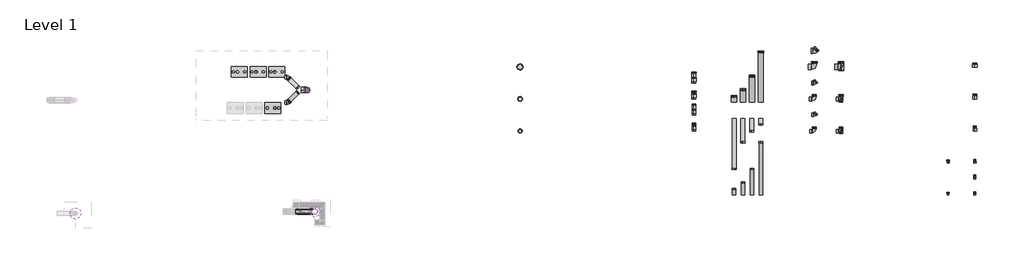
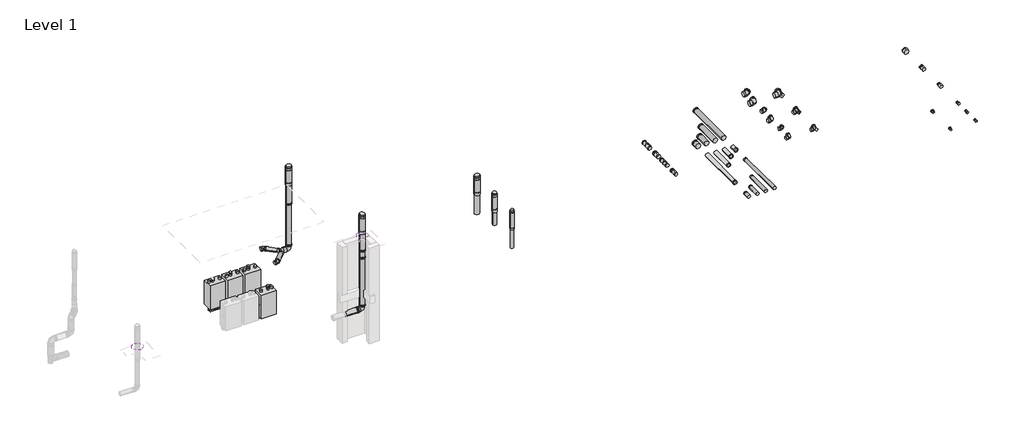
# One storey, part 2 of 2: 43 duct fittings, 5 air terminals, 4 unitary equipment elements, 3 duct segments, 2 coverings.
"""IFC4 building model written with IfcOpenShell, lengths in millimetres."""

from ifc_helpers import new_model, si_unit, frame, origin, place, context, project, spatial, circle_curve, ellipse_curve, transform, mapped, element, save
from ifc_brep_helpers import plane_surface, cylinder_surface, advanced_brep
from components import air_terminal_c4a1c7fc, air_terminal_16127070, air_terminal_aa595a08, air_terminal_d551fddf, covering_b4739faa, covering_65d68dae, duct_fitting_533d9af2, duct_fitting_b8df35ce, duct_fitting_8dfe7da2, duct_fitting_345853f5, duct_fitting_ab07d6e0, duct_fitting_0e4c7d32, duct_fitting_3590a55b, duct_fitting_fbf5378a, duct_fitting_61e90ce6, duct_fitting_113a3a52, duct_fitting_7c9a1def, duct_fitting_1957377e, duct_fitting_2b33db09, duct_fitting_de41c6b8, duct_fitting_32ee2810, duct_fitting_5c795bad, duct_fitting_2964ce86, duct_fitting_6345bc61, duct_fitting_84fb14a7, duct_fitting_6d300570, duct_fitting_58c5740b, duct_fitting_590bbebe, duct_fitting_acd04bb9, duct_fitting_d5854984, duct_fitting_9444e74b, duct_fitting_ad141df4, duct_fitting_7f7e895c, duct_fitting_6e9e7a38, duct_fitting_632ce2a9, duct_fitting_e9746d7f, duct_fitting_a8be000e, duct_fitting_9e2eeb5f, duct_fitting_29f06fc0, duct_fitting_274715c7, duct_fitting_88745d1b, duct_fitting_c2fbb5bf, duct_fitting_874dda1b, duct_fitting_8a0d83d2, type_1_50a8d933

model = new_model("IFC4")

# Units and contexts
model_context = context("Model", 3, world=origin())
ifc_project = project(units=[si_unit("LENGTHUNIT", "METRE", prefix="MILLI")], contexts=[model_context])

# Site, building, storey
site = spatial("IfcSite", under=ifc_project)
building = spatial("IfcBuilding", under=site)
storey = spatial("IfcBuildingStorey", under=building, Name="Level 1", Elevation=0.0)

# Air terminals
placement = place(None, origin())
air_terminal_shape = air_terminal_c4a1c7fc(model_context)
element("IfcAirTerminal", 1, ObjectType="RSFen_AIR_WPB_flue gas rooftop terminal_M&G : PP Black, ø130", at=placement, inside=storey, context=model_context, shape_type="MappedRepresentation", body=[
    mapped(air_terminal_shape, transform((16514.2193339, 5618.3323371, 0.0), x_axis=(1.0, 0.0, 0.0), y_axis=(0.0, 1.0, 0.0), z_axis=(0.0, 0.0, 1.0))),
])
air_terminal_2_shape = air_terminal_16127070(model_context)
element("IfcAirTerminal", 2, ObjectType="RSFen_AIR_WPB_flue gas rooftop terminal_M&G : PP Black, ø150", at=placement, inside=storey, context=model_context, shape_type="MappedRepresentation", body=[
    mapped(air_terminal_2_shape, transform((16514.2193339, 6818.3323371, 0.0), x_axis=(1.0, 0.0, 0.0), y_axis=(0.0, 1.0, 0.0), z_axis=(0.0, 0.0, 1.0))),
])
air_terminal_3_shape = air_terminal_aa595a08(model_context)
element("IfcAirTerminal", 3, ObjectType="RSFen_AIR_WPB_flue gas rooftop terminal_M&G : PP Black, ø200", at=placement, inside=storey, context=model_context, shape_type="MappedRepresentation", body=[
    mapped(air_terminal_3_shape, transform((16514.2193339, 8018.3323371, 0.0), x_axis=(1.0, 0.0, 0.0), y_axis=(0.0, 1.0, 0.0), z_axis=(0.0, 0.0, 1.0))),
])
air_terminal_4_shape = air_terminal_d551fddf(model_context)
element("IfcAirTerminal", 4, ObjectType="RSFen_AIR_WPB_flue gas rooftop terminal_M&G : PP Black, ø200", at=placement, inside=storey, context=model_context, shape_type="MappedRepresentation", body=[
    mapped(air_terminal_4_shape, transform((8838.4992982, 2600.0743938, 4345.0), x_axis=(1.0, 0.0, 0.0), y_axis=(0.0, 1.0, 0.0), z_axis=(0.0, 0.0, 1.0))),
])
element("IfcAirTerminal", 5, ObjectType="RSFen_AIR_WPB_flue gas rooftop terminal_M&G : PP Black, ø200", at=placement, inside=storey, context=model_context, shape_type="MappedRepresentation", body=[
    mapped(air_terminal_3_shape, transform((8558.8674434, 7156.464626, 3705.2550343), x_axis=(1.0, 0.0, 0.0), y_axis=(0.0, 1.0, 0.0), z_axis=(0.0, 0.0, 1.0))),
])

# Coverings
covering_shape = covering_b4739faa(model_context)
element("IfcCovering", 6, ObjectType="RSFen_GM_WPB_weather slate flat roof_M&G : ø160", at=placement, inside=storey, context=model_context, shape_type="MappedRepresentation", body=[
    mapped(covering_shape, transform((-100.8341645, 2531.0161204, 2750.0), x_axis=(1.0, 0.0, 0.0), y_axis=(0.0, 1.0, 0.0), z_axis=(0.0, 0.0, 1.0))),
])
covering_2_shape = covering_65d68dae(model_context)
element("IfcCovering", 7, ObjectType="RSFen_GM_WPB_weather slate flat roof_M&G : ø204", at=placement, inside=storey, context=model_context, shape_type="MappedRepresentation", body=[
    mapped(covering_2_shape, transform((8838.4992982, 2600.0743938, 4250.0), x_axis=(1.0, 0.0, 0.0), y_axis=(0.0, 1.0, 0.0), z_axis=(0.0, 0.0, 1.0))),
])

# Duct fittings
duct_fitting_shape = duct_fitting_533d9af2(model_context)
element("IfcDuctFitting", 8, ObjectType="RSFen_DUF_UN_Twinline Expander_M&G : ø60-80-100-130-150-200", at=placement, inside=storey, context=model_context, shape_type="MappedRepresentation", body=[
    mapped(duct_fitting_shape, transform((32514.2193339, 4418.3323371, 0.0), x_axis=(0.0, 1.0, 0.0), y_axis=(-1.0, 0.0, 0.0), z_axis=(0.0, 0.0, 1.0))),
])
duct_fitting_2_shape = duct_fitting_b8df35ce(model_context)
element("IfcDuctFitting", 9, ObjectType="RSFen_DUF_UN_Twinline Reducer_M&G : ø080-100-150-200", at=placement, inside=storey, context=model_context, shape_type="MappedRepresentation", body=[
    mapped(duct_fitting_2_shape, transform((33514.2193339, 5618.3323371, 0.0), x_axis=(0.0, 1.0, 0.0), y_axis=(-1.0, 0.0, 0.0), z_axis=(0.0, 0.0, 1.0))),
])
duct_fitting_3_shape = duct_fitting_8dfe7da2(model_context)
element("IfcDuctFitting", 10, ObjectType="RSFen_DUF_UN_Twinline Extension_M&G : ø130-150-200", at=placement, inside=storey, context=model_context, shape_type="MappedRepresentation", body=[
    mapped(duct_fitting_3_shape, transform((24847.5526673, 6703.3323371, 0.0), x_axis=(0.0, 1.0, 0.0), y_axis=(-1.0, 0.0, 0.0), z_axis=(0.0, 0.0, 1.0))),
])
duct_fitting_4_shape = duct_fitting_345853f5(model_context)
element("IfcDuctFitting", 11, ObjectType="RSFen_DUF_UN_Twinline Bend_M&G : ø130 - 150 - 200", at=placement, inside=storey, context=model_context, shape_type="MappedRepresentation", body=[
    mapped(duct_fitting_4_shape, transform((8838.4992982, 2600.0743938, 1178.3755805), x_axis=(1.0, 0.0, 0.0), y_axis=(0.0, 0.0, 1.0), z_axis=(0.0, -1.0, 0.0))),
])
element("IfcDuctFitting", 12, ObjectType="RSFen_DUF_UN_Twinline Bend_M&G : ø130 - 150 - 200", at=placement, inside=storey, context=model_context, shape_type="MappedRepresentation", body=[
    mapped(duct_fitting_4_shape, transform((27514.2193339, 8018.3323371, 0.0), x_axis=(1.0, 0.0, 0.0), y_axis=(0.0, 1.0, 0.0), z_axis=(0.0, 0.0, 1.0))),
])
duct_fitting_5_shape = duct_fitting_ab07d6e0(model_context)
element("IfcDuctFitting", 13, ObjectType="RSFen_DUF_UN_Twinline Bend_M&G : ø130 - 150 - 200", at=placement, inside=storey, context=model_context, shape_type="MappedRepresentation", body=[
    mapped(duct_fitting_5_shape, transform((27514.2193339, 8618.3323371, 0.0), x_axis=(1.0, 0.0, 0.0), y_axis=(0.0, 1.0, 0.0), z_axis=(0.0, 0.0, 1.0))),
])
duct_fitting_6_shape = duct_fitting_0e4c7d32(model_context)
element("IfcDuctFitting", 14, ObjectType="RSFen_DUF_UN_Twinline Bend_M&G : ø130 - 150 - 200", at=placement, inside=storey, context=model_context, shape_type="MappedRepresentation", body=[
    mapped(duct_fitting_6_shape, transform((27514.2193339, 6818.3323371, 0.0), x_axis=(1.0, 0.0, 0.0), y_axis=(0.0, 1.0, 0.0), z_axis=(0.0, 0.0, 1.0))),
])
duct_fitting_7_shape = duct_fitting_3590a55b(model_context)
element("IfcDuctFitting", 15, ObjectType="RSFen_DUF_UN_Twinline Extension_M&G : ø130-150-200", at=placement, inside=storey, context=model_context, shape_type="MappedRepresentation", body=[
    mapped(duct_fitting_7_shape, transform((8106.4992982, 2600.0743938, 1178.3755805), x_axis=(1.0, 0.0, 0.0), y_axis=(0.0, 1.0, 0.0), z_axis=(0.0, 0.0, 1.0))),
])
duct_fitting_8_shape = duct_fitting_fbf5378a(model_context)
element("IfcDuctFitting", 16, ObjectType="RSFen_DUF_UN_Twinline Extension_M&G : ø130-150-200", at=placement, inside=storey, context=model_context, shape_type="MappedRepresentation", body=[
    mapped(duct_fitting_8_shape, transform((8838.4992982, 2600.0743938, 1313.3755805), x_axis=(0.0, 0.0, 1.0), y_axis=(-1.0, 0.0, 0.0), z_axis=(0.0, -1.0, 0.0))),
])
duct_fitting_9_shape = duct_fitting_61e90ce6(model_context)
element("IfcDuctFitting", 17, ObjectType="RSFen_DUF_UN_Twinline Extension_M&G : ø130-150-200", at=placement, inside=storey, context=model_context, shape_type="MappedRepresentation", body=[
    mapped(duct_fitting_9_shape, transform((8838.4992982, 2600.0743938, 3313.3755805), x_axis=(0.0, 0.0, 1.0), y_axis=(-1.0, 0.0, 0.0), z_axis=(0.0, -1.0, 0.0))),
])
duct_fitting_10_shape = duct_fitting_113a3a52(model_context)
element("IfcDuctFitting", 18, ObjectType="RSFen_DUF_UN_Twinline Bend_M&G : ø130 - 150 - 200", at=placement, inside=storey, context=model_context, shape_type="MappedRepresentation", body=[
    mapped(duct_fitting_10_shape, transform((7826.7451939, 7629.2362199, 996.9267508), x_axis=(0.9997985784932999, 0.0, 0.020069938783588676), y_axis=(0.0, -1.0000000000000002, 0.0), z_axis=(0.020069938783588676, 0.0, -0.9997985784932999))),
])
element("IfcDuctFitting", 19, ObjectType="RSFen_DUF_UN_Twinline Bend_M&G : ø130 - 150 - 200", at=placement, inside=storey, context=model_context, shape_type="MappedRepresentation", body=[
    mapped(duct_fitting_10_shape, transform((27514.2193339, 7418.3323371, 0.0), x_axis=(1.0, 0.0, 0.0), y_axis=(0.0, 1.0, 0.0), z_axis=(0.0, 0.0, 1.0))),
])
element("IfcDuctFitting", 20, ObjectType="RSFen_DUF_UN_Twinline Bend_M&G : ø130 - 150 - 200", at=placement, inside=storey, context=model_context, shape_type="MappedRepresentation", body=[
    mapped(duct_fitting_10_shape, transform((7826.7451939, 6683.6930321, 996.9267508), x_axis=(0.9997985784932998, 0.0, 0.020069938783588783), y_axis=(0.0, 1.0, 0.0), z_axis=(-0.020069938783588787, 0.0, 0.9997985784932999))),
])
duct_fitting_11_shape = duct_fitting_7c9a1def(model_context)
element("IfcDuctFitting", 21, ObjectType="RSFen_DUF_UN_Twinline Extension_M&G : ø130-150-200", at=placement, inside=storey, context=model_context, shape_type="MappedRepresentation", body=[
    mapped(duct_fitting_11_shape, transform((7871.2839482, 6728.2407593, 997.8208209), x_axis=(0.7069643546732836, 0.707106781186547, 0.014191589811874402), y_axis=(-0.7069643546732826, 0.7071067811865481, -0.01419158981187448), z_axis=(-0.020069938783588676, 0.0, 0.9997985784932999))),
])
element("IfcDuctFitting", 22, ObjectType="RSFen_DUF_UN_Twinline Extension_M&G : ø130-150-200", at=placement, inside=storey, context=model_context, shape_type="MappedRepresentation", body=[
    mapped(duct_fitting_11_shape, transform((25180.8860006, 6088.3323251, 0.0), x_axis=(0.0, -1.0, 0.0), y_axis=(1.0, 0.0, 0.0), z_axis=(0.0, 0.0, 1.0))),
])
element("IfcDuctFitting", 23, ObjectType="RSFen_DUF_UN_Twinline Extension_M&G : ø130-150-200", at=placement, inside=storey, context=model_context, shape_type="MappedRepresentation", body=[
    mapped(duct_fitting_11_shape, transform((7871.2839482, 7584.6884926, 997.8208209), x_axis=(0.7069643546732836, -0.707106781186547, 0.014191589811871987), y_axis=(-0.7069643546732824, -0.7071067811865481, -0.014191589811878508), z_axis=(0.020069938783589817, 0.0, -0.9997985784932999))),
])
duct_fitting_12_shape = duct_fitting_1957377e(model_context)
element("IfcDuctFitting", 24, ObjectType="RSFen_DUF_UN_Twinline Extension_M&G : ø130-150-200", at=placement, inside=storey, context=model_context, shape_type="MappedRepresentation", body=[
    mapped(duct_fitting_12_shape, transform((8558.8674434, 7156.464626, 1171.6283963), x_axis=(0.0, 0.0, 1.0), y_axis=(-1.0, 0.0, 0.0), z_axis=(0.0, -1.0, 0.0))),
])
duct_fitting_13_shape = duct_fitting_2b33db09(model_context)
element("IfcDuctFitting", 25, ObjectType="RSFen_DUF_UN_Twinline Bend_M&G : ø130 - 150 - 200", at=placement, inside=storey, context=model_context, shape_type="MappedRepresentation", body=[
    mapped(duct_fitting_13_shape, transform((8558.8674434, 7156.464626, 1036.6283963), x_axis=(0.9997985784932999, 0.0, 0.020069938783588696), y_axis=(-0.020069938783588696, 0.0, 0.9997985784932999), z_axis=(0.0, -1.0, 0.0))),
])
duct_fitting_14_shape = duct_fitting_de41c6b8(model_context)
element("IfcDuctFitting", 26, ObjectType="RSFen_DUF_UN_Twinline Adjuster_M&G : ø130-150", at=placement, inside=storey, context=model_context, shape_type="MappedRepresentation", body=[
    mapped(duct_fitting_14_shape, transform((23014.2193339, 5618.3323371, 0.0), x_axis=(0.0, 1.0, 0.0), y_axis=(-1.0, 0.0, 0.0), z_axis=(0.0, 0.0, 1.0))),
])
duct_fitting_15_shape = duct_fitting_32ee2810(model_context)
element("IfcDuctFitting", 27, ObjectType="RSFen_DUF_UN_Twinline Expander_M&G : ø60-80-100-130-150-200", at=placement, inside=storey, context=model_context, shape_type="MappedRepresentation", body=[
    mapped(duct_fitting_15_shape, transform((32514.2193339, 3218.3323371, 0.0), x_axis=(0.0, 1.0, 0.0), y_axis=(-1.0, 0.0, 0.0), z_axis=(0.0, 0.0, 1.0))),
])
duct_fitting_16_shape = duct_fitting_5c795bad(model_context)
element("IfcDuctFitting", 28, ObjectType="RSFen_DUF_UN_Twinline Reducer_M&G : ø080-100-150-200", at=placement, inside=storey, context=model_context, shape_type="MappedRepresentation", body=[
    mapped(duct_fitting_16_shape, transform((33514.2193339, 3218.3323371, 0.0), x_axis=(0.0, 1.0, 0.0), y_axis=(-1.0, 0.0, 0.0), z_axis=(0.0, 0.0, 1.0))),
])
duct_fitting_17_shape = duct_fitting_2964ce86(model_context)
element("IfcDuctFitting", 29, ObjectType="RSFen_DUF_UN_Twinline Reducer_M&G : ø080-100-150-200", at=placement, inside=storey, context=model_context, shape_type="MappedRepresentation", body=[
    mapped(duct_fitting_17_shape, transform((33514.2193339, 4418.3323371, 0.0), x_axis=(0.0, 1.0, 0.0), y_axis=(-1.0, 0.0, 0.0), z_axis=(0.0, 0.0, 1.0))),
])
duct_fitting_18_shape = duct_fitting_6345bc61(model_context)
element("IfcDuctFitting", 30, ObjectType="RSFen_DUF_UN_Twinline Reducer_M&G : ø080-100-150-200", at=placement, inside=storey, context=model_context, shape_type="MappedRepresentation", body=[
    mapped(duct_fitting_18_shape, transform((33514.2193339, 6818.3323371, 0.0), x_axis=(0.0, 1.0, 0.0), y_axis=(-1.0, 0.0, 0.0), z_axis=(0.0, 0.0, 1.0))),
])
duct_fitting_19_shape = duct_fitting_84fb14a7(model_context)
element("IfcDuctFitting", 31, ObjectType="RSFen_DUF_UN_Twinline Reducer_M&G : ø080-100-150-200", at=placement, inside=storey, context=model_context, shape_type="MappedRepresentation", body=[
    mapped(duct_fitting_19_shape, transform((33514.2193339, 8018.3323371, 0.0), x_axis=(0.0, 1.0, 0.0), y_axis=(-1.0, 0.0, 0.0), z_axis=(0.0, 0.0, 1.0))),
])
duct_fitting_20_shape = duct_fitting_6d300570(model_context)
element("IfcDuctFitting", 32, ObjectType="RSFen_DUF_UN_Twinline Reducer_M&G : ø080-100-150-200", at=placement, inside=storey, context=model_context, shape_type="MappedRepresentation", body=[
    mapped(duct_fitting_20_shape, transform((33514.2193339, 3818.3323371, 0.0), x_axis=(0.0, 1.0, 0.0), y_axis=(-1.0, 0.0, 0.0), z_axis=(0.0, 0.0, 1.0))),
])
duct_fitting_21_shape = duct_fitting_58c5740b(model_context)
element("IfcDuctFitting", 33, ObjectType="RSFen_DUF_UN_Twinline Extension_M&G : ø130-150-200", at=placement, inside=storey, context=model_context, shape_type="MappedRepresentation", body=[
    mapped(duct_fitting_21_shape, transform((24847.5526673, 3218.3323371, 0.0), x_axis=(0.0, 1.0, 0.0), y_axis=(-1.0, 0.0, 0.0), z_axis=(0.0, 0.0, 1.0))),
])
duct_fitting_22_shape = duct_fitting_590bbebe(model_context)
element("IfcDuctFitting", 34, ObjectType="RSFen_DUF_UN_Twinline Extension_M&G : ø130-150-200", at=placement, inside=storey, context=model_context, shape_type="MappedRepresentation", body=[
    mapped(duct_fitting_22_shape, transform((24514.2193339, 3218.3323371, 0.0), x_axis=(0.0, 1.0, 0.0), y_axis=(-1.0, 0.0, 0.0), z_axis=(0.0, 0.0, 1.0))),
])
duct_fitting_23_shape = duct_fitting_acd04bb9(model_context)
element("IfcDuctFitting", 35, ObjectType="RSFen_DUF_UN_Twinline Extension_M&G : ø130-150-200", at=placement, inside=storey, context=model_context, shape_type="MappedRepresentation", body=[
    mapped(duct_fitting_23_shape, transform((25180.8860006, 3218.3323371, 0.0), x_axis=(0.0, 1.0, 0.0), y_axis=(-1.0, 0.0, 0.0), z_axis=(0.0, 0.0, 1.0))),
])
duct_fitting_24_shape = duct_fitting_d5854984(model_context)
element("IfcDuctFitting", 36, ObjectType="RSFen_DUF_UN_Twinline Extension_M&G : ø130-150-200", at=placement, inside=storey, context=model_context, shape_type="MappedRepresentation", body=[
    mapped(duct_fitting_24_shape, transform((25514.2193339, 3218.3323371, 0.0), x_axis=(0.0, 1.0, 0.0), y_axis=(-1.0, 0.0, 0.0), z_axis=(0.0, 0.0, 1.0))),
])
duct_fitting_25_shape = duct_fitting_9444e74b(model_context)
element("IfcDuctFitting", 37, ObjectType="RSFen_DUF_UN_Twinline Extension_M&G : ø130-150-200", at=placement, inside=storey, context=model_context, shape_type="MappedRepresentation", body=[
    mapped(duct_fitting_25_shape, transform((24847.5526673, 6088.3323251, 0.0), x_axis=(0.0, -1.0, 0.0), y_axis=(1.0, 0.0, 0.0), z_axis=(0.0, 0.0, 1.0))),
])
duct_fitting_26_shape = duct_fitting_ad141df4(model_context)
element("IfcDuctFitting", 38, ObjectType="RSFen_DUF_UN_Twinline Extension_M&G : ø130-150-200", at=placement, inside=storey, context=model_context, shape_type="MappedRepresentation", body=[
    mapped(duct_fitting_26_shape, transform((24514.2193339, 6088.3323251, 0.0), x_axis=(0.0, -1.0, 0.0), y_axis=(1.0, 0.0, 0.0), z_axis=(0.0, 0.0, 1.0))),
])
duct_fitting_27_shape = duct_fitting_7f7e895c(model_context)
element("IfcDuctFitting", 39, ObjectType="RSFen_DUF_UN_Twinline Extension_M&G : ø130-150-200", at=placement, inside=storey, context=model_context, shape_type="MappedRepresentation", body=[
    mapped(duct_fitting_27_shape, transform((24514.2193339, 6703.3323371, 0.0), x_axis=(0.0, 1.0, 0.0), y_axis=(-1.0, 0.0, 0.0), z_axis=(0.0, 0.0, 1.0))),
])
duct_fitting_28_shape = duct_fitting_6e9e7a38(model_context)
element("IfcDuctFitting", 40, ObjectType="RSFen_DUF_UN_Twinline Extension_M&G : ø130-150-200", at=placement, inside=storey, context=model_context, shape_type="MappedRepresentation", body=[
    mapped(duct_fitting_28_shape, transform((25180.8860006, 6703.3323371, 0.0), x_axis=(0.0, 1.0, 0.0), y_axis=(-1.0, 0.0, 0.0), z_axis=(0.0, 0.0, 1.0))),
])
duct_fitting_29_shape = duct_fitting_632ce2a9(model_context)
element("IfcDuctFitting", 41, ObjectType="RSFen_DUF_UN_Twinline Extension_M&G : ø130-150-200", at=placement, inside=storey, context=model_context, shape_type="MappedRepresentation", body=[
    mapped(duct_fitting_29_shape, transform((25514.2193339, 6703.3323371, 0.0), x_axis=(0.0, 1.0, 0.0), y_axis=(-1.0, 0.0, 0.0), z_axis=(0.0, 0.0, 1.0))),
])
duct_fitting_30_shape = duct_fitting_e9746d7f(model_context)
element("IfcDuctFitting", 42, ObjectType="RSFen_DUF_UN_Twinline Extension_M&G : ø130-150-200", at=placement, inside=storey, context=model_context, shape_type="MappedRepresentation", body=[
    mapped(duct_fitting_30_shape, transform((25514.2193339, 6088.3323251, 0.0), x_axis=(0.0, -1.0, 0.0), y_axis=(1.0, 0.0, 0.0), z_axis=(0.0, 0.0, 1.0))),
])
duct_fitting_31_shape = duct_fitting_a8be000e(model_context)
element("IfcDuctFitting", 43, ObjectType="RSFen_DUF_UN_Twinline Bend_M&G : ø130 - 150 - 200", at=placement, inside=storey, context=model_context, shape_type="MappedRepresentation", body=[
    mapped(duct_fitting_31_shape, transform((27514.2193339, 6218.3323371, 0.0), x_axis=(1.0, 0.0, 0.0), y_axis=(0.0, 1.0, 0.0), z_axis=(0.0, 0.0, 1.0))),
])
duct_fitting_32_shape = duct_fitting_9e2eeb5f(model_context)
element("IfcDuctFitting", 44, ObjectType="RSFen_DUF_UN_Twinline Supportbend_M&G : ø130 - 150 - 200", at=placement, inside=storey, context=model_context, shape_type="MappedRepresentation", body=[
    mapped(duct_fitting_32_shape, transform((28514.2193339, 6818.3323371, 0.0), x_axis=(1.0, 0.0, 0.0), y_axis=(0.0, 1.0, 0.0), z_axis=(0.0, 0.0, 1.0))),
])
duct_fitting_33_shape = duct_fitting_29f06fc0(model_context)
element("IfcDuctFitting", 45, ObjectType="RSFen_DUF_UN_Twinline Supportbend_M&G : ø130 - 150 - 200", at=placement, inside=storey, context=model_context, shape_type="MappedRepresentation", body=[
    mapped(duct_fitting_33_shape, transform((28514.2193339, 8018.3323371, 0.0), x_axis=(1.0, 0.0, 0.0), y_axis=(0.0, 1.0, 0.0), z_axis=(0.0, 0.0, 1.0))),
])
duct_fitting_34_shape = duct_fitting_274715c7(model_context)
element("IfcDuctFitting", 46, ObjectType="RSFen_DUF_UN_Twinline Adjuster_M&G : ø130-150", at=placement, inside=storey, context=model_context, shape_type="MappedRepresentation", body=[
    mapped(duct_fitting_34_shape, transform((23014.2193339, 6218.3323371, 0.0), x_axis=(0.0, 1.0, 0.0), y_axis=(-1.0, 0.0, 0.0), z_axis=(0.0, 0.0, 1.0))),
])
duct_fitting_35_shape = duct_fitting_88745d1b(model_context)
element("IfcDuctFitting", 47, ObjectType="RSFen_DUF_UN_Twinline Adjuster_M&G : ø130-150", at=placement, inside=storey, context=model_context, shape_type="MappedRepresentation", body=[
    mapped(duct_fitting_35_shape, transform((23014.2193339, 6818.3323371, 0.0), x_axis=(0.0, 1.0, 0.0), y_axis=(-1.0, 0.0, 0.0), z_axis=(0.0, 0.0, 1.0))),
])
duct_fitting_36_shape = duct_fitting_c2fbb5bf(model_context)
element("IfcDuctFitting", 48, ObjectType="RSFen_DUF_UN_Twinline Adjuster_M&G : ø130-150", at=placement, inside=storey, context=model_context, shape_type="MappedRepresentation", body=[
    mapped(duct_fitting_36_shape, transform((23014.2193339, 7418.3323371, 0.0), x_axis=(0.0, 1.0, 0.0), y_axis=(-1.0, 0.0, 0.0), z_axis=(0.0, 0.0, 1.0))),
])
duct_fitting_37_shape = duct_fitting_874dda1b(model_context)
element("IfcDuctFitting", 49, ObjectType="RSFen_DUF_UN_Twinline Supportbend_M&G : ø130 - 150 - 200", at=placement, inside=storey, context=model_context, shape_type="MappedRepresentation", body=[
    mapped(duct_fitting_37_shape, transform((28514.2193339, 5618.3323371, 0.0), x_axis=(1.0, 0.0, 0.0), y_axis=(0.0, 1.0, 0.0), z_axis=(0.0, 0.0, 1.0))),
])
duct_fitting_38_shape = duct_fitting_8a0d83d2(model_context)
element("IfcDuctFitting", 50, ObjectType="RSFen_DUF_UN_Twinline Bend_M&G : ø130 - 150 - 200", at=placement, inside=storey, context=model_context, shape_type="MappedRepresentation", body=[
    mapped(duct_fitting_38_shape, transform((27514.2193339, 5618.3323371, 0.0), x_axis=(1.0, 0.0, 0.0), y_axis=(0.0, 1.0, 0.0), z_axis=(0.0, 0.0, 1.0))),
])

# Duct segments
element("IfcDuctSegment", 51, ObjectType="Flex - Round", at=placement, inside=storey, context=model_context, shape_type="AdvancedBrep", body=[
    advanced_brep(
    [(7397.1946595, 7825.5535859, 225.0), (7339.1087777, 7785.2296845, 224.8846446), (7298.7847217, 7843.315459, 225.0), (7356.8706035, 7883.6393604, 225.1153554), (7397.1770793, 7825.4561825, 267.9008687), (7339.0912424, 7785.1325302, 267.6757795), (7298.7671414, 7843.2180556, 267.9008687), (7356.8529783, 7883.5417079, 268.1259579), (7397.1260524, 7825.1734675, 310.8009108), (7356.8018209, 7883.2582697, 311.1357316), (7298.7161146, 7842.9353406, 310.8009108), (7339.0403461, 7784.8505384, 310.46609)],
    [
        (0, 1, circle_curve(frame((7347.9896906, 7834.4345225, 225.0), z_axis=(0.00040978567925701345, 0.0022704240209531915, -0.9999973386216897), x_axis=(0.9840993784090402, -0.1776187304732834, 0.0)), 50.0)),
        (1, 2, circle_curve(frame((7347.9896906, 7834.4345225, 225.0), z_axis=(0.00040978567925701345, 0.0022704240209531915, -0.9999973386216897), x_axis=(0.9840993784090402, -0.1776187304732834, 0.0)), 50.0)),
        (2, 3, circle_curve(frame((7347.9896906, 7834.4345225, 225.0), z_axis=(0.00040978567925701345, 0.0022704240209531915, -0.9999973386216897), x_axis=(0.9840993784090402, -0.1776187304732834, 0.0)), 50.0)),
        (3, 0, circle_curve(frame((7347.9896906, 7834.4345225, 225.0), z_axis=(0.00040978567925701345, 0.0022704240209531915, -0.9999973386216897), x_axis=(0.9840993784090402, -0.1776187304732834, 0.0)), 50.0)),
        (0, 4),
        (4, 5, ellipse_curve(frame((7347.9721104, 7834.337119, 267.9008687), z_axis=(0.0007995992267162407, 0.004430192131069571, -0.99998986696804), x_axis=(-0.17761693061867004, -0.9840894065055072, -0.004501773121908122)), 50.0001204, 50.0)),
        (5, 1),
        (5, 6, ellipse_curve(frame((7347.9721104, 7834.337119, 267.9008687), z_axis=(0.0007995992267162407, 0.004430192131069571, -0.99998986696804), x_axis=(-0.17761693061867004, -0.9840894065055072, -0.004501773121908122)), 50.0001204, 50.0)),
        (6, 2),
        (6, 7, ellipse_curve(frame((7347.9721104, 7834.337119, 267.9008687), z_axis=(0.0007995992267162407, 0.004430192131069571, -0.99998986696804), x_axis=(-0.17761693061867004, -0.9840894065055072, -0.004501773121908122)), 50.0001204, 50.0)),
        (7, 3),
        (7, 4, ellipse_curve(frame((7347.9721104, 7834.337119, 267.9008687), z_axis=(0.0007995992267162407, 0.004430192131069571, -0.99998986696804), x_axis=(-0.17761693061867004, -0.9840894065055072, -0.004501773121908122)), 50.0001204, 50.0)),
        (8, 9, circle_curve(frame((7347.9210835, 7834.054404, 310.8009108), z_axis=(-0.0011894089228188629, -0.0065899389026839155, 0.9999775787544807), x_axis=(0.9840993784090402, -0.17761873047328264, 0.0)), 50.0)),
        (9, 10, circle_curve(frame((7347.9210835, 7834.054404, 310.8009108), z_axis=(-0.0011894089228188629, -0.0065899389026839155, 0.9999775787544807), x_axis=(0.9840993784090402, -0.17761873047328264, 0.0)), 50.0)),
        (10, 11, circle_curve(frame((7347.9210835, 7834.054404, 310.8009108), z_axis=(-0.0011894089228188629, -0.0065899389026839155, 0.9999775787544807), x_axis=(0.9840993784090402, -0.17761873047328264, 0.0)), 50.0)),
        (11, 8, circle_curve(frame((7347.9210835, 7834.054404, 310.8009108), z_axis=(-0.0011894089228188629, -0.0065899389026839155, 0.9999775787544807), x_axis=(0.9840993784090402, -0.17761873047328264, 0.0)), 50.0)),
        (4, 8),
        (11, 5),
        (10, 6),
        (9, 7),
    ],
    [
        plane_surface(frame((7347.9896906, 7784.4346513, 224.8864788), z_axis=(0.0004097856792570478, 0.0022704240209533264, -0.9999973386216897), x_axis=(0.9999999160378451, -9.303873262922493e-07, 0.00040978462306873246))),
        cylinder_surface(frame((7347.9896906, 7834.4345225, 225.0), z_axis=(0.00040978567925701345, 0.0022704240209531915, -0.9999973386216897), x_axis=(0.9840993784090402, -0.1776187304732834, 0.0)), 50.0),
        plane_surface(frame((7347.9210835, 7784.0554897, 310.4714136), z_axis=(-0.0011894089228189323, -0.0065899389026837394, 0.9999775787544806), x_axis=(0.9999992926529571, -7.838137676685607e-06, 0.001189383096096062))),
        cylinder_surface(frame((7347.9721104, 7834.337119, 267.9008687), z_axis=(0.0011894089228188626, 0.006589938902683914, -0.9999775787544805), x_axis=(0.9840993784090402, -0.17761873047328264, 0.0)), 50.0),
    ],
    [
        (0, [[1, 2, 3, 4]]),
        (1, [[-1, 5, 6, 7]]),
        (1, [[-2, -7, 8, 9]]),
        (1, [[-3, -9, 10, 11]]),
        (1, [[-4, -11, 12, -5]]),
        (2, [[13, 14, 15, 16]]),
        (3, [[-6, 17, -16, 18]]),
        (3, [[-8, -18, -15, 19]]),
        (3, [[-10, -19, -14, 20]]),
        (3, [[-12, -20, -13, -17]]),
    ],
),
])
element("IfcDuctSegment", 52, ObjectType="Flex - Round", at=placement, inside=storey, context=model_context, shape_type="AdvancedBrep", body=[
    advanced_brep(
    [(6696.7937337, 7822.895461, 225.0), (6636.604449, 7785.7844922, 224.8387557), (6599.4931672, 7845.9735839, 225.0), (6659.682452, 7883.0845527, 225.1612443), (6696.7670373, 7822.7829052, 260.8703653), (6636.5778297, 7785.6722616, 260.6055066), (6599.466462, 7845.8609908, 260.8822796), (6659.6556696, 7882.9716345, 261.1471383), (6696.7123753, 7822.5154057, 296.7400396), (6659.6008315, 7882.7032734, 297.1323386), (6599.4117818, 7845.5934024, 296.7638678), (6636.5233256, 7785.4055347, 296.3715688)],
    [
        (0, 1, circle_curve(frame((6648.1434505, 7834.4345225, 225.0), z_axis=(0.0007442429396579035, 0.0031378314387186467, -0.9999948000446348), x_axis=(0.973005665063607, -0.23078122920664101, 0.0)), 50.0)),
        (1, 2, circle_curve(frame((6648.1434505, 7834.4345225, 225.0), z_axis=(0.0007442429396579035, 0.0031378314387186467, -0.9999948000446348), x_axis=(0.973005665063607, -0.23078122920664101, 0.0)), 50.0)),
        (2, 3, circle_curve(frame((6648.1434505, 7834.4345225, 225.0), z_axis=(0.0007442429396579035, 0.0031378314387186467, -0.9999948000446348), x_axis=(0.973005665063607, -0.23078122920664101, 0.0)), 50.0)),
        (3, 0, circle_curve(frame((6648.1434505, 7834.4345225, 225.0), z_axis=(0.0007442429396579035, 0.0031378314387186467, -0.9999948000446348), x_axis=(0.973005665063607, -0.23078122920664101, 0.0)), 50.0)),
        (0, 4),
        (4, 5, ellipse_curve(frame((6648.1167497, 7834.321948, 260.8763224), z_axis=(0.0011340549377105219, 0.005297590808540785, -0.9999853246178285), x_axis=(-0.17761594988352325, -0.9840849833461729, -0.005414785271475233)), 50.0001204, 50.0)),
        (5, 1),
        (5, 6, ellipse_curve(frame((6648.1167497, 7834.321948, 260.8763224), z_axis=(0.0011340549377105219, 0.005297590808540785, -0.9999853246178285), x_axis=(-0.17761594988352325, -0.9840849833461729, -0.005414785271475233)), 50.0001204, 50.0)),
        (6, 2),
        (6, 7, ellipse_curve(frame((6648.1167497, 7834.321948, 260.8763224), z_axis=(0.0011340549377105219, 0.005297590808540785, -0.9999853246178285), x_axis=(-0.17761594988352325, -0.9840849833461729, -0.005414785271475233)), 50.0001204, 50.0)),
        (7, 3),
        (7, 4, ellipse_curve(frame((6648.1167497, 7834.321948, 260.8763224), z_axis=(0.0011340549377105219, 0.005297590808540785, -0.9999853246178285), x_axis=(-0.17761594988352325, -0.9840849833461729, -0.005414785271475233)), 50.0001204, 50.0)),
        (8, 9, circle_curve(frame((6648.0620786, 7834.054404, 296.7519537), z_axis=(-0.0015238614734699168, -0.007457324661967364, 0.9999710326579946), x_axis=(0.9730059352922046, -0.23077996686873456, -0.00023828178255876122)), 50.0)),
        (9, 10, circle_curve(frame((6648.0620786, 7834.054404, 296.7519537), z_axis=(-0.0015238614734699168, -0.007457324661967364, 0.9999710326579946), x_axis=(0.9730059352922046, -0.23077996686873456, -0.00023828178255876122)), 50.0)),
        (10, 11, circle_curve(frame((6648.0620786, 7834.054404, 296.7519537), z_axis=(-0.0015238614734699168, -0.007457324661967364, 0.9999710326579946), x_axis=(0.9730059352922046, -0.23077996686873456, -0.00023828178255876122)), 50.0)),
        (11, 8, circle_curve(frame((6648.0620786, 7834.054404, 296.7519537), z_axis=(-0.0015238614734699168, -0.007457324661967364, 0.9999710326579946), x_axis=(0.9730059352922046, -0.23077996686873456, -0.00023828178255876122)), 50.0)),
        (4, 8),
        (11, 5),
        (10, 6),
        (9, 7),
    ],
    [
        plane_surface(frame((6648.1434505, 7784.4347686, 224.8431084), z_axis=(0.0007442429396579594, 0.0031378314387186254, -0.9999948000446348), x_axis=(0.9999997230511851, -2.3353095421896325e-06, 0.0007442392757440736))),
        cylinder_surface(frame((6648.1434505, 7834.4345225, 225.0), z_axis=(0.0007442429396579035, 0.0031378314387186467, -0.9999948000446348), x_axis=(0.973005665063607, -0.23078122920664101, 0.0)), 50.0),
        plane_surface(frame((6648.0620786, 7784.0557943, 296.379087), z_axis=(-0.0015238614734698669, -0.007457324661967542, 0.9999710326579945), x_axis=(0.9999988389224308, -1.136394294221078e-05, 0.001523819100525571))),
        cylinder_surface(frame((6648.1167497, 7834.321948, 260.8763224), z_axis=(0.0015238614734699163, 0.007457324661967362, -0.9999710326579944), x_axis=(0.9730059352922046, -0.23077996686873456, -0.00023828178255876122)), 50.0),
    ],
    [
        (0, [[1, 2, 3, 4]]),
        (1, [[-1, 5, 6, 7]]),
        (1, [[-2, -7, 8, 9]]),
        (1, [[-3, -9, 10, 11]]),
        (1, [[-4, -11, 12, -5]]),
        (2, [[13, 14, 15, 16]]),
        (3, [[-6, 17, -16, 18]]),
        (3, [[-8, -18, -15, 19]]),
        (3, [[-10, -19, -14, 20]]),
        (3, [[-12, -20, -13, -17]]),
    ],
),
])
element("IfcDuctSegment", 53, ObjectType="Flex - Round", at=placement, inside=storey, context=model_context, shape_type="AdvancedBrep", body=[
    advanced_brep(
    [(7328.2523149, 6433.7542998, 225.0), (7299.758783, 6498.4699203, 224.9157539), (7364.4743632, 6526.963544, 225.0), (7392.967895, 6462.2479235, 225.0842461), (7328.1847942, 6433.780539, 267.9929269), (7299.6912815, 6498.4962087, 267.9086808), (7364.4067933, 6526.9898024, 267.9929268), (7392.9003552, 6462.2741135, 268.0771731), (7328.1366006, 6433.9397672, 311.1374695), (7392.8523383, 6462.4331383, 311.104395), (7364.3590574, 6527.1483568, 310.8334017), (7299.6433196, 6498.6549857, 310.8664762)],
    [
        (0, 1, circle_curve(frame((7346.363339, 6480.3589219, 225.0), z_axis=(0.0015705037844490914, -0.0006103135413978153, -0.9999985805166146), x_axis=(-0.36222048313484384, -0.9320924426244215, 0.0)), 50.0)),
        (1, 2, circle_curve(frame((7346.363339, 6480.3589219, 225.0), z_axis=(0.0015705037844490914, -0.0006103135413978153, -0.9999985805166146), x_axis=(-0.36222048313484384, -0.9320924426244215, 0.0)), 50.0)),
        (2, 3, circle_curve(frame((7346.363339, 6480.3589219, 225.0), z_axis=(0.0015705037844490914, -0.0006103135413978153, -0.9999985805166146), x_axis=(-0.36222048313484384, -0.9320924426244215, 0.0)), 50.0)),
        (3, 0, circle_curve(frame((7346.363339, 6480.3589219, 225.0), z_axis=(0.0015705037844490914, -0.0006103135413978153, -0.9999985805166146), x_axis=(-0.36222048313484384, -0.9320924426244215, 0.0)), 50.0)),
        (0, 4),
        (4, 5, circle_curve(frame((7346.2958184, 6480.3851611, 267.9929269), z_axis=(0.0015705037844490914, -0.0006103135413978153, -0.9999985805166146), x_axis=(-0.36222048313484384, -0.9320924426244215, 0.0)), 50.0)),
        (5, 1),
        (5, 6, circle_curve(frame((7346.2958184, 6480.3851611, 267.9929269), z_axis=(0.0015705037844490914, -0.0006103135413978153, -0.9999985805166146), x_axis=(-0.36222048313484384, -0.9320924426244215, 0.0)), 50.0)),
        (6, 2),
        (6, 7, circle_curve(frame((7346.2958184, 6480.3851611, 267.9929269), z_axis=(0.0015705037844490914, -0.0006103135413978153, -0.9999985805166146), x_axis=(-0.36222048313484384, -0.9320924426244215, 0.0)), 50.0)),
        (7, 3),
        (7, 4, circle_curve(frame((7346.2958184, 6480.3851611, 267.9929269), z_axis=(0.0015705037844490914, -0.0006103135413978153, -0.9999985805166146), x_axis=(-0.36222048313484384, -0.9320924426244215, 0.0)), 50.0)),
        (8, 9, circle_curve(frame((7346.247829, 6480.544062, 310.9854356), z_axis=(-0.0011162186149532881, 0.003695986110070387, 0.9999925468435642), x_axis=(-0.36222456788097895, -0.9320858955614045, 0.0030406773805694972)), 50.0)),
        (9, 10, circle_curve(frame((7346.247829, 6480.544062, 310.9854356), z_axis=(-0.0011162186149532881, 0.003695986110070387, 0.9999925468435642), x_axis=(-0.36222456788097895, -0.9320858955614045, 0.0030406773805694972)), 50.0)),
        (10, 11, circle_curve(frame((7346.247829, 6480.544062, 310.9854356), z_axis=(-0.0011162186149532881, 0.003695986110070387, 0.9999925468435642), x_axis=(-0.36222456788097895, -0.9320858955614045, 0.0030406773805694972)), 50.0)),
        (11, 8, circle_curve(frame((7346.247829, 6480.544062, 310.9854356), z_axis=(-0.0011162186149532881, 0.003695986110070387, 0.9999925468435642), x_axis=(-0.36222456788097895, -0.9320858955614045, 0.0030406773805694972)), 50.0)),
        (4, 8),
        (11, 5),
        (10, 6),
        (9, 7),
    ],
    [
        plane_surface(frame((7346.363339, 6430.3589312, 225.0305157), z_axis=(0.0015705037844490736, -0.0006103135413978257, -0.9999985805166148), x_axis=(0.9999987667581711, 9.585009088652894e-07, 0.0015705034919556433))),
        cylinder_surface(frame((7346.363339, 6480.3589219, 225.0), z_axis=(0.0015705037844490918, -0.0006103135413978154, -0.9999985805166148), x_axis=(-0.36222048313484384, -0.9320924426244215, 0.0)), 50.0),
        plane_surface(frame((7346.247829, 6430.5444035, 311.170235), z_axis=(-0.001116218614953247, 0.00369598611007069, 0.9999925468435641), x_axis=(0.9999993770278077, 4.1255310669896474e-06, 0.0011162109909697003))),
        cylinder_surface(frame((7346.2958184, 6480.3851611, 267.9929269), z_axis=(0.0011162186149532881, -0.003695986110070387, -0.9999925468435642), x_axis=(-0.36222456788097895, -0.9320858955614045, 0.0030406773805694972)), 50.0),
    ],
    [
        (0, [[1, 2, 3, 4]]),
        (1, [[-1, 5, 6, 7]]),
        (1, [[-2, -7, 8, 9]]),
        (1, [[-3, -9, 10, 11]]),
        (1, [[-4, -11, 12, -5]]),
        (2, [[13, 14, 15, 16]]),
        (3, [[-6, 17, -16, 18]]),
        (3, [[-8, -18, -15, 19]]),
        (3, [[-10, -19, -14, 20]]),
        (3, [[-12, -20, -13, -17]]),
    ],
),
])

# Unitary equipment
type_1_shape = type_1_50a8d933(model_context)
element("IfcUnitaryEquipment", 54, ObjectType="RSFen_ME_UN_MC000066_Gasheating_UOB : Type 1", at=placement, inside=storey, context=model_context, shape_type="MappedRepresentation", body=[
    mapped(type_1_shape, transform((7422.9896906, 7634.4345225, 150.0), x_axis=(-1.0, 0.0, 0.0), y_axis=(0.0, -1.0, 0.0), z_axis=(0.0, 0.0, 1.0))),
])
element("IfcUnitaryEquipment", 55, ObjectType="RSFen_ME_UN_MC000066_Gasheating_UOB : Type 1", at=placement, inside=storey, context=model_context, shape_type="MappedRepresentation", body=[
    mapped(type_1_shape, transform((6723.1434505, 7634.4345225, 150.0), x_axis=(-1.0, 0.0, 0.0), y_axis=(0.0, -1.0, 0.0), z_axis=(0.0, 0.0, 1.0))),
])
element("IfcUnitaryEquipment", 56, ObjectType="RSFen_ME_UN_MC000066_Gasheating_UOB : Type 1", at=placement, inside=storey, context=model_context, shape_type="MappedRepresentation", body=[
    mapped(type_1_shape, transform((6023.2989381, 7634.5209212, 150.0), x_axis=(-1.0, 0.0, 0.0), y_axis=(0.0, -1.0, 0.0), z_axis=(0.0, 0.0, 1.0))),
])
element("IfcUnitaryEquipment", 57, ObjectType="RSFen_ME_UN_MC000066_Gasheating_UOB : Type 1", at=placement, inside=storey, context=model_context, shape_type="MappedRepresentation", body=[
    mapped(type_1_shape, transform((7271.363339, 6680.3589219, 150.0), x_axis=(1.0, 0.0, 0.0), y_axis=(0.0, 1.0, 0.0), z_axis=(0.0, 0.0, 1.0))),
])

save(model, "model.ifc")
